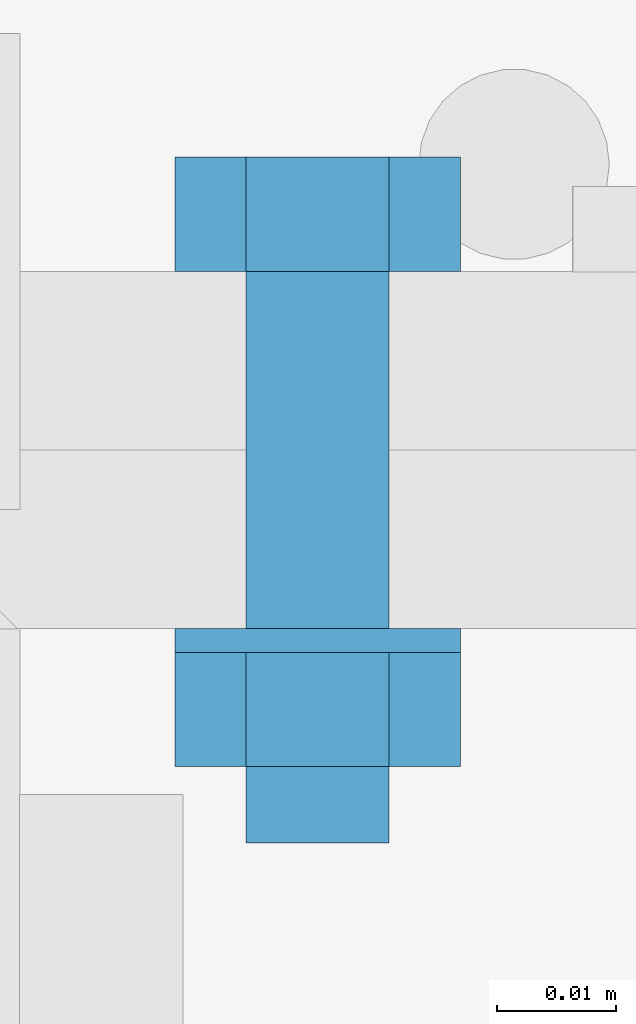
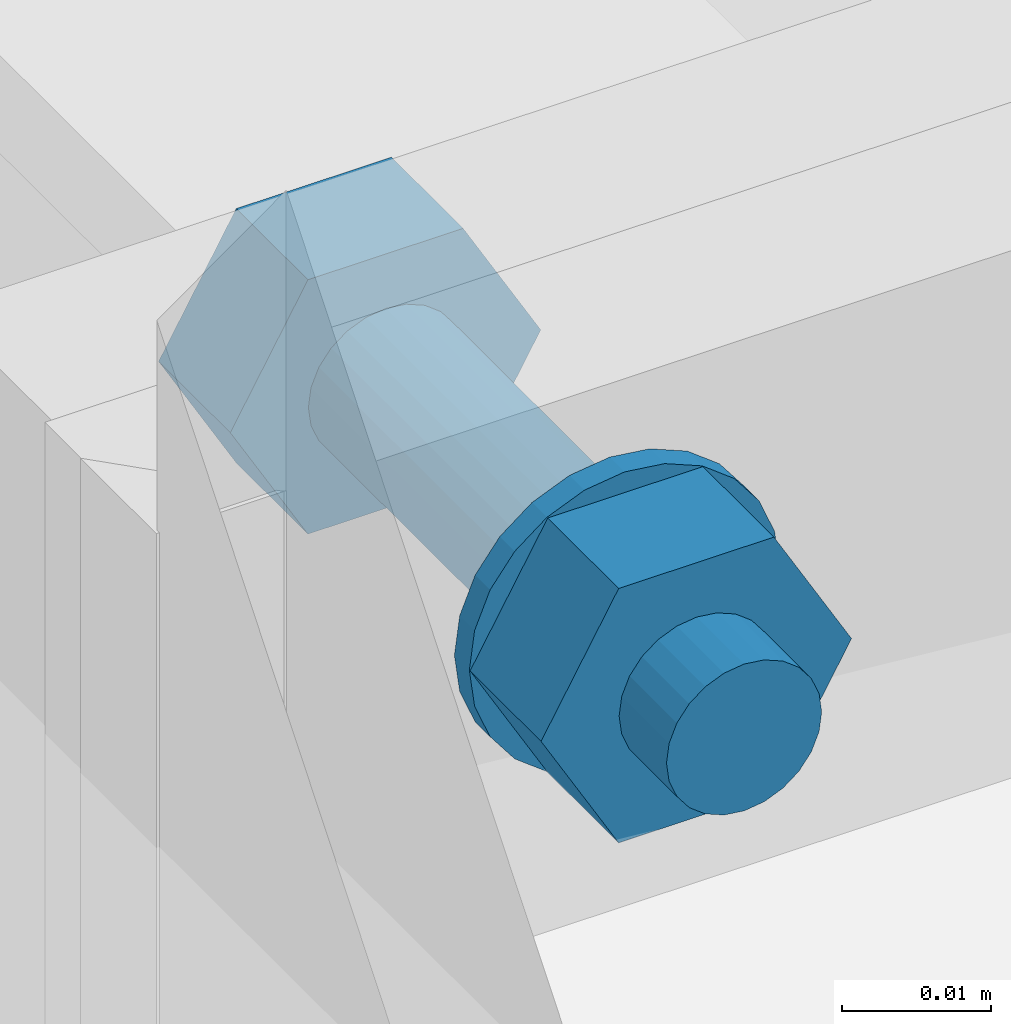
# One storey, part 116 of 251: 4 mechanical fasteners.
"""IFC4 building model written with IfcOpenShell, lengths in metres."""

from ifc_helpers import new_model, si_unit, frame, origin_with_axes, place, context, project, spatial, polyline, outline, extrude, type_object, element, save


model = new_model("IFC4")

# Units and contexts
model_context = context("Model", 3, precision=1e-05, world=origin_with_axes())
ifc_project = project(units=[si_unit("LENGTHUNIT", "METRE"), si_unit("AREAUNIT", "SQUARE_METRE"), si_unit("VOLUMEUNIT", "CUBIC_METRE"), si_unit("MASSUNIT", "GRAM", prefix="KILO"), si_unit("TIMEUNIT", "SECOND"), si_unit("PLANEANGLEUNIT", "RADIAN"), si_unit("SOLIDANGLEUNIT", "STERADIAN"), si_unit("THERMODYNAMICTEMPERATUREUNIT", "DEGREE_CELSIUS")], contexts=[model_context])

# Site, building, storey
placement_1 = place(None, origin_with_axes())
site = spatial("IfcSite", under=ifc_project, at=placement_1, Name="Italia", CompositionType="ELEMENT")
building = spatial("IfcBuilding", under=site, at=placement_1, Name="Deposito", CompositionType="ELEMENT")
storey = spatial("IfcBuildingStorey", under=building, at=placement_1, Name="Storey 0", CompositionType="ELEMENT", Elevation=0.0)

# Mechanical fasteners
mechanical_fastener_type_1 = type_object("IfcMechanicalFastenerType", Name="Collegamenti -064_-065 -065_-064 -065_-066 -066_-065 -066_-067 -067_-066 -067_-068 -068_-067", PredefinedType="BOLT")
placement_2 = place(placement_1, origin_with_axes())
mechanical_fastener_1_placement = place(placement_2, origin_with_axes())
element("IfcMechanicalFastener", 1, at=mechanical_fastener_1_placement, inside=storey, type_object=mechanical_fastener_type_1, Name="Collegamenti -064_-065 -065_-064 -065_-066 -066_-065 -066_-067 -067_-066 -067_-068 -068_-067", NominalDiameter=0.0119991, context=model_context, shape_type="SweptSolid", body=[
    extrude(outline(polyline([(0.0, 0.0), (-0.0119991, 0.0), (-0.0179996, 0.0103922), (-0.0119991, 0.0207849), (0.0, 0.0207849), (0.00600052, 0.0103922), (0.0, 0.0)])), frame((19.934, 5.13, 5.90461), z_axis=(0.0, 1.0, 0.0), x_axis=(-1.0, 0.0, 0.0)), (0.0, 0.0, 1.0), 0.00959969),
])
mechanical_fastener_type_2 = type_object("IfcMechanicalFastenerType", Name="Collegamenti -064_-065 -065_-064 -065_-066 -066_-065 -066_-067 -067_-066 -067_-068 -068_-067", PredefinedType="BOLT")
mechanical_fastener_2_placement = place(placement_2, origin_with_axes())
element("IfcMechanicalFastener", 2, at=mechanical_fastener_2_placement, inside=storey, type_object=mechanical_fastener_type_2, Name="Collegamenti -064_-065 -065_-064 -065_-066 -066_-065 -066_-067 -067_-066 -067_-068 -068_-067", NominalDiameter=0.012, context=model_context, shape_type="SweptSolid", body=[
    extrude(outline(polyline([(0.0, 0.0), (-0.000204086, -0.00155306), (-0.000804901, -0.00299978), (-0.00175858, -0.00424242), (-0.00300026, -0.00519609), (-0.00444794, -0.00579548), (-0.00600052, -0.00600004), (-0.0075531, -0.00579548), (-0.00900078, -0.00519609), (-0.0102425, -0.00424242), (-0.0111961, -0.00299978), (-0.011797, -0.00155306), (-0.012001, 0.0), (-0.011797, 0.00155306), (-0.0111961, 0.00299978), (-0.0102425, 0.00424242), (-0.00900078, 0.00519609), (-0.0075531, 0.00579548), (-0.00600052, 0.00600004), (-0.00444794, 0.00579548), (-0.00300026, 0.00519609), (-0.00175858, 0.00424242), (-0.000804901, 0.00299978), (-0.000204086, 0.00155306), (0.0, 0.0)])), frame((19.934, 5.082, 5.915), z_axis=(0.0, 1.0, 0.0), x_axis=(-1.0, 0.0, 0.0)), (0.0, 0.0, 1.0), 0.0480003),
])
mechanical_fastener_type_3 = type_object("IfcMechanicalFastenerType", Name="Collegamenti -064_-065 -065_-064 -065_-066 -066_-065 -066_-067 -067_-066 -067_-068 -068_-067", PredefinedType="BOLT")
mechanical_fastener_3_placement = place(placement_2, origin_with_axes())
element("IfcMechanicalFastener", 3, at=mechanical_fastener_3_placement, inside=storey, type_object=mechanical_fastener_type_3, Name="Collegamenti -064_-065 -065_-064 -065_-066 -066_-065 -066_-067 -067_-066 -067_-068 -068_-067", NominalDiameter=0.0119991, context=model_context, shape_type="SweptSolid", body=[
    extrude(outline(polyline([(0.0, 0.0), (-0.0119991, 0.0), (-0.0179996, 0.0103922), (-0.0119991, 0.0207849), (0.0, 0.0207849), (0.00600052, 0.0103922), (0.0, 0.0)])), frame((19.934, 5.0884, 5.90461), z_axis=(0.0, 1.0, 0.0), x_axis=(-1.0, 0.0, 0.0)), (0.0, 0.0, 1.0), 0.00960016),
])
mechanical_fastener_type_4 = type_object("IfcMechanicalFastenerType", Name="Collegamenti -064_-065 -065_-064 -065_-066 -066_-065 -066_-067 -067_-066 -067_-068 -068_-067", PredefinedType="BOLT")
mechanical_fastener_4_placement = place(placement_2, origin_with_axes())
element("IfcMechanicalFastener", 4, at=mechanical_fastener_4_placement, inside=storey, type_object=mechanical_fastener_type_4, Name="Collegamenti -064_-065 -065_-064 -065_-066 -066_-065 -066_-067 -067_-066 -067_-068 -068_-067", NominalDiameter=0.024, context=model_context, shape_type="SweptSolid", body=[
    extrude(outline(polyline([(0.0, 0.0), (-0.000408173, -0.00310564), (-0.00160599, -0.00600004), (-0.00351334, -0.00848532), (-0.00599861, -0.0103922), (-0.00889397, -0.011591), (-0.0119991, -0.0120001), (-0.0151043, -0.011591), (-0.0179996, -0.0103922), (-0.0204849, -0.00848532), (-0.0223923, -0.00600004), (-0.0235901, -0.00310564), (-0.0239983, 0.0), (-0.0235901, 0.00310564), (-0.0223923, 0.00600004), (-0.0204849, 0.00848532), (-0.0179996, 0.0103922), (-0.0151043, 0.011591), (-0.0119991, 0.0120001), (-0.00889397, 0.011591), (-0.00599861, 0.0103922), (-0.00351334, 0.00848532), (-0.00160599, 0.00600004), (-0.000408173, 0.00310564), (0.0, 0.0)])), frame((19.928, 5.098, 5.915), z_axis=(0.0, 1.0, 0.0), x_axis=(-1.0, 0.0, 0.0)), (0.0, 0.0, 1.0), 0.00199986),
])

save(model, "model.ifc")
